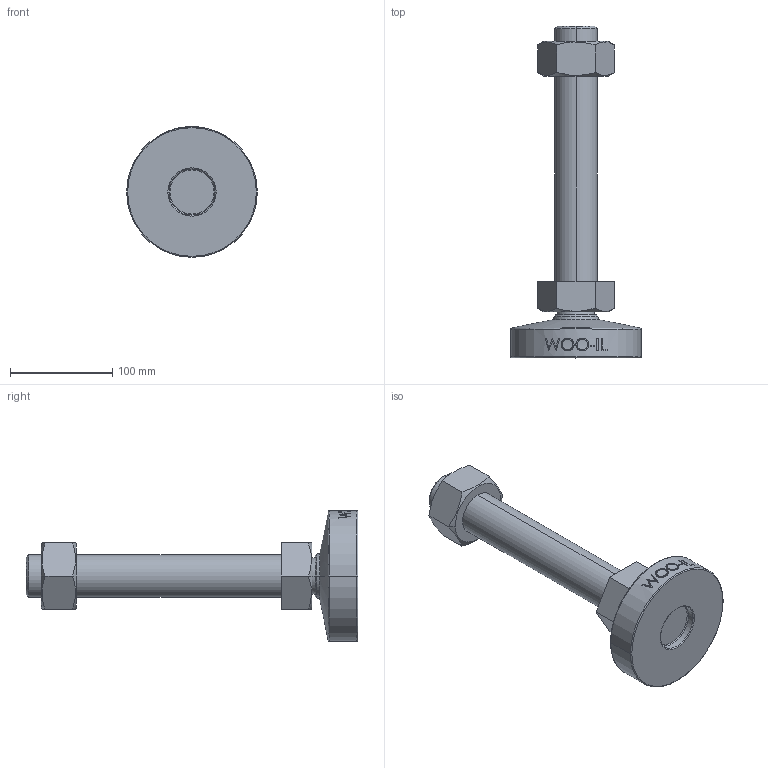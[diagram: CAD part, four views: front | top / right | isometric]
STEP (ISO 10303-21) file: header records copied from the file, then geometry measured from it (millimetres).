
FILE_DESCRIPTION (( 'STEP AP214' ), '1' );
FILE_NAME ('MFN128-M42-250.step', '2021-03-29T07:34:49', ( '' ), ( '' ), 'SwSTEP 2.0', 'SolidWorks 2019', '' );
FILE_SCHEMA (( 'AUTOMOTIVE_DESIGN' ));
Length unit declared in the file: millimetre
Products named in the file (2): MFN128-M42-250
Bounding box: 128 x 325 x 128 mm (x, y, z)
Volume: 954672.7 mm3; surface area: 99839.7 mm2
Topology: 2 solids, 2 shells, 107 faces, 247 edges, 156 vertices
Faces by surface type: plane 47, cone 18, cylinder 16, bspline 16, torus 8, sphere 2
Entity records: 4761 total; most frequent: CARTESIAN_POINT 2394, ORIENTED_EDGE 494, DIRECTION 447, EDGE_CURVE 247, AXIS2_PLACEMENT_3D 173, VERTEX_POINT 156, EDGE_LOOP 121, ADVANCED_FACE 107
